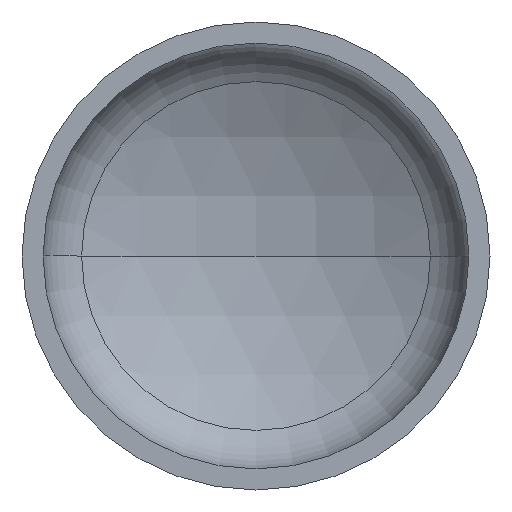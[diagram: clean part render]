
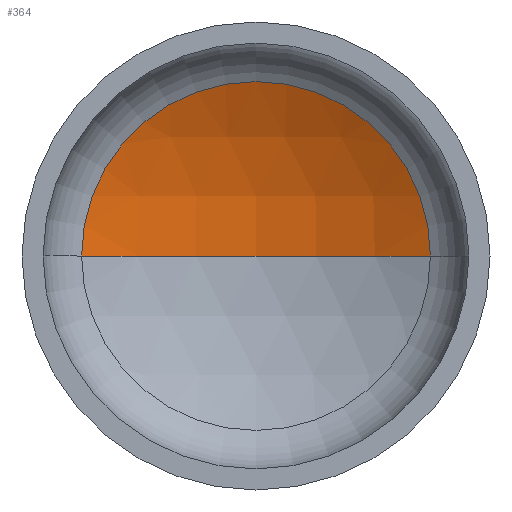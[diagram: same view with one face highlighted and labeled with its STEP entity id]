
A CAD part, front view. The second image highlights one B-rep face of the part: STEP entity #364.
In plain terms, the highlighted spherical face has radius 1920 mm.
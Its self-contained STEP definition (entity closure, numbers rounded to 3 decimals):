
#13 = VERTEX_POINT ( 'NONE', #369 ) ;
#17 = EDGE_LOOP ( 'NONE', ( #138, #125, #61 ) ) ;
#19 = AXIS2_PLACEMENT_3D ( 'NONE', #389, #396, #223 ) ;
#27 = AXIS2_PLACEMENT_3D ( 'NONE', #84, #58, #57 ) ;
#28 = AXIS2_PLACEMENT_3D ( 'NONE', #410, #291, #288 ) ;
#57 = DIRECTION ( 'NONE',  ( -1., 0., 0. ) ) ;
#58 = DIRECTION ( 'NONE',  ( 0., 0., -1. ) ) ;
#61 = ORIENTED_EDGE ( 'NONE', *, *, #359, .T. ) ;
#84 = CARTESIAN_POINT ( 'NONE',  ( 0., -1296.574, 0. ) ) ;
#89 = VERTEX_POINT ( 'NONE', #262 ) ;
#119 = DIRECTION ( 'NONE',  ( 1., 0., 0. ) ) ;
#125 = ORIENTED_EDGE ( 'NONE', *, *, #360, .T. ) ;
#132 = DIRECTION ( 'NONE',  ( 0., 0., 1. ) ) ;
#135 = VERTEX_POINT ( 'NONE', #234 ) ;
#138 = ORIENTED_EDGE ( 'NONE', *, *, #392, .F. ) ;
#186 = AXIS2_PLACEMENT_3D ( 'NONE', #190, #132, #119 ) ;
#190 = CARTESIAN_POINT ( 'NONE',  ( 0., -1296.574, 0. ) ) ;
#223 = DIRECTION ( 'NONE',  ( -1., 0., 0. ) ) ;
#234 = CARTESIAN_POINT ( 'NONE',  ( -894.348, 402.408, 0. ) ) ;
#240 = CIRCLE ( 'NONE', #186, 1920. ) ;
#255 = FACE_OUTER_BOUND ( 'NONE', #17, .T. ) ;
#262 = CARTESIAN_POINT ( 'NONE',  ( 894.348, 402.408, 0. ) ) ;
#288 = DIRECTION ( 'NONE',  ( 1., 0., 0. ) ) ;
#291 = DIRECTION ( 'NONE',  ( 0., -1., 0. ) ) ;
#312 = CIRCLE ( 'NONE', #27, 1920. ) ;
#359 = EDGE_CURVE ( 'NONE', #89, #135, #368, .T. ) ;
#360 = EDGE_CURVE ( 'NONE', #13, #89, #312, .T. ) ;
#364 = ADVANCED_FACE ( 'NONE', ( #255 ), #407, .F. ) ;
#368 = CIRCLE ( 'NONE', #28, 894.348 ) ;
#369 = CARTESIAN_POINT ( 'NONE',  ( 0., 623.426, 0. ) ) ;
#389 = CARTESIAN_POINT ( 'NONE',  ( 0., -1296.574, 0. ) ) ;
#392 = EDGE_CURVE ( 'NONE', #13, #135, #240, .T. ) ;
#396 = DIRECTION ( 'NONE',  ( 0., 0., -1. ) ) ;
#407 = SPHERICAL_SURFACE ( 'NONE', #19, 1920. ) ;
#410 = CARTESIAN_POINT ( 'NONE',  ( 0., 402.408, 0. ) ) ;
